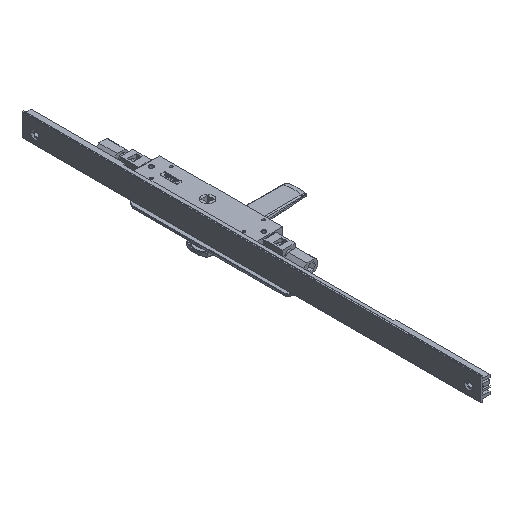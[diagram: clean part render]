
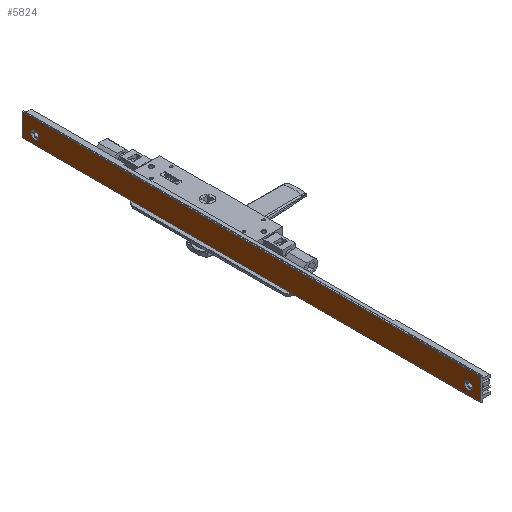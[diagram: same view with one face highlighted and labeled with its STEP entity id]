
A CAD part, isometric view. The second image highlights one B-rep face of the part: STEP entity #5824.
In plain terms, the highlighted planar face has unit normal (-1, 0, 0) as drawn and (0, 1, 0) by its records, which use the part's own axes.
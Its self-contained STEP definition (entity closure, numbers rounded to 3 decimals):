
#129 = VERTEX_POINT ( 'NONE', #3266 ) ;
#562 = ORIENTED_EDGE ( 'NONE', *, *, #3501, .F. ) ;
#576 = CIRCLE ( 'NONE', #14592, 4.889 ) ;
#681 = VERTEX_POINT ( 'NONE', #15379 ) ;
#880 = PLANE ( 'NONE',  #20160 ) ;
#1950 = LINE ( 'NONE', #11499, #7297 ) ;
#2823 = CARTESIAN_POINT ( 'NONE',  ( 11.8, 12.4, 19.89 ) ) ;
#2885 = VERTEX_POINT ( 'NONE', #16867 ) ;
#2915 = EDGE_CURVE ( 'NONE', #2885, #26768, #21252, .T. ) ;
#3266 = CARTESIAN_POINT ( 'NONE',  ( -4.4, 12.4, 544. ) ) ;
#3501 = EDGE_CURVE ( 'NONE', #26768, #129, #1950, .T. ) ;
#4245 = EDGE_LOOP ( 'NONE', ( #4911, #8144 ) ) ;
#4265 = CARTESIAN_POINT ( 'NONE',  ( 20.8, 12.4, 0. ) ) ;
#4629 = CARTESIAN_POINT ( 'NONE',  ( 11.8, 12.4, 15. ) ) ;
#4734 = CIRCLE ( 'NONE', #19274, 4.889 ) ;
#4911 = ORIENTED_EDGE ( 'NONE', *, *, #10080, .F. ) ;
#5824 = ADVANCED_FACE ( 'NONE', ( #26936, #10735, #27250 ), #880, .F. ) ;
#6078 = VECTOR ( 'NONE', #13987, 1000. ) ;
#6777 = LINE ( 'NONE', #4265, #6078 ) ;
#7297 = VECTOR ( 'NONE', #14461, 1000. ) ;
#8144 = ORIENTED_EDGE ( 'NONE', *, *, #20714, .F. ) ;
#8236 = CARTESIAN_POINT ( 'NONE',  ( 20.8, 12.4, 544. ) ) ;
#8977 = DIRECTION ( 'NONE',  ( 0., 0., 1. ) ) ;
#10054 = CARTESIAN_POINT ( 'NONE',  ( 22., 12.4, 544. ) ) ;
#10080 = EDGE_CURVE ( 'NONE', #20625, #681, #29013, .T. ) ;
#10682 = EDGE_CURVE ( 'NONE', #2885, #12038, #6777, .T. ) ;
#10735 = FACE_BOUND ( 'NONE', #21645, .T. ) ;
#10743 = VECTOR ( 'NONE', #28652, 1000. ) ;
#10796 = CARTESIAN_POINT ( 'NONE',  ( 11.8, 12.4, 529. ) ) ;
#11499 = CARTESIAN_POINT ( 'NONE',  ( 20.8, 12.4, 544. ) ) ;
#11509 = CARTESIAN_POINT ( 'NONE',  ( -4.4, 12.4, 0. ) ) ;
#12038 = VERTEX_POINT ( 'NONE', #11509 ) ;
#12940 = DIRECTION ( 'NONE',  ( 1., 0., 0. ) ) ;
#13285 = EDGE_CURVE ( 'NONE', #24218, #20334, #576, .T. ) ;
#13380 = CARTESIAN_POINT ( 'NONE',  ( 11.8, 12.4, 529. ) ) ;
#13793 = DIRECTION ( 'NONE',  ( 0., 0., 1. ) ) ;
#13912 = DIRECTION ( 'NONE',  ( 0., 1., 0. ) ) ;
#13987 = DIRECTION ( 'NONE',  ( -1., 0., 0. ) ) ;
#14461 = DIRECTION ( 'NONE',  ( -1., 0., 0. ) ) ;
#14592 = AXIS2_PLACEMENT_3D ( 'NONE', #13380, #25620, #8977 ) ;
#15379 = CARTESIAN_POINT ( 'NONE',  ( 11.8, 12.4, 10.111 ) ) ;
#15450 = ORIENTED_EDGE ( 'NONE', *, *, #27389, .F. ) ;
#15573 = CIRCLE ( 'NONE', #23603, 4.89 ) ;
#15970 = DIRECTION ( 'NONE',  ( 0., 0., 1. ) ) ;
#16140 = CARTESIAN_POINT ( 'NONE',  ( 11.8, 12.4, 15. ) ) ;
#16704 = CARTESIAN_POINT ( 'NONE',  ( 22., 12.4, 0. ) ) ;
#16867 = CARTESIAN_POINT ( 'NONE',  ( 22., 12.4, 0. ) ) ;
#17497 = DIRECTION ( 'NONE',  ( 0., -1., 0. ) ) ;
#19274 = AXIS2_PLACEMENT_3D ( 'NONE', #10796, #27626, #15970 ) ;
#19467 = AXIS2_PLACEMENT_3D ( 'NONE', #4629, #13912, #27919 ) ;
#19825 = VECTOR ( 'NONE', #25071, 1000. ) ;
#20160 = AXIS2_PLACEMENT_3D ( 'NONE', #8236, #17497, #12940 ) ;
#20334 = VERTEX_POINT ( 'NONE', #23090 ) ;
#20492 = CARTESIAN_POINT ( 'NONE',  ( -4.4, 12.4, 0. ) ) ;
#20625 = VERTEX_POINT ( 'NONE', #2823 ) ;
#20714 = EDGE_CURVE ( 'NONE', #681, #20625, #15573, .T. ) ;
#21252 = LINE ( 'NONE', #16704, #10743 ) ;
#21645 = EDGE_LOOP ( 'NONE', ( #15450, #24118 ) ) ;
#22049 = EDGE_LOOP ( 'NONE', ( #25107, #30908, #562, #27603 ) ) ;
#23090 = CARTESIAN_POINT ( 'NONE',  ( 11.8, 12.4, 533.889 ) ) ;
#23137 = CARTESIAN_POINT ( 'NONE',  ( 11.8, 12.4, 524.111 ) ) ;
#23603 = AXIS2_PLACEMENT_3D ( 'NONE', #16140, #25738, #13793 ) ;
#24118 = ORIENTED_EDGE ( 'NONE', *, *, #13285, .F. ) ;
#24218 = VERTEX_POINT ( 'NONE', #23137 ) ;
#25071 = DIRECTION ( 'NONE',  ( 0., 0., 1. ) ) ;
#25107 = ORIENTED_EDGE ( 'NONE', *, *, #10682, .T. ) ;
#25620 = DIRECTION ( 'NONE',  ( 0., 1., 0. ) ) ;
#25738 = DIRECTION ( 'NONE',  ( 0., 1., 0. ) ) ;
#26768 = VERTEX_POINT ( 'NONE', #10054 ) ;
#26936 = FACE_BOUND ( 'NONE', #4245, .T. ) ;
#27250 = FACE_OUTER_BOUND ( 'NONE', #22049, .T. ) ;
#27389 = EDGE_CURVE ( 'NONE', #20334, #24218, #4734, .T. ) ;
#27590 = LINE ( 'NONE', #20492, #19825 ) ;
#27603 = ORIENTED_EDGE ( 'NONE', *, *, #2915, .F. ) ;
#27626 = DIRECTION ( 'NONE',  ( 0., 1., 0. ) ) ;
#27919 = DIRECTION ( 'NONE',  ( 0., 0., 1. ) ) ;
#28652 = DIRECTION ( 'NONE',  ( 0., 0., 1. ) ) ;
#28931 = EDGE_CURVE ( 'NONE', #12038, #129, #27590, .T. ) ;
#29013 = CIRCLE ( 'NONE', #19467, 4.89 ) ;
#30908 = ORIENTED_EDGE ( 'NONE', *, *, #28931, .T. ) ;
